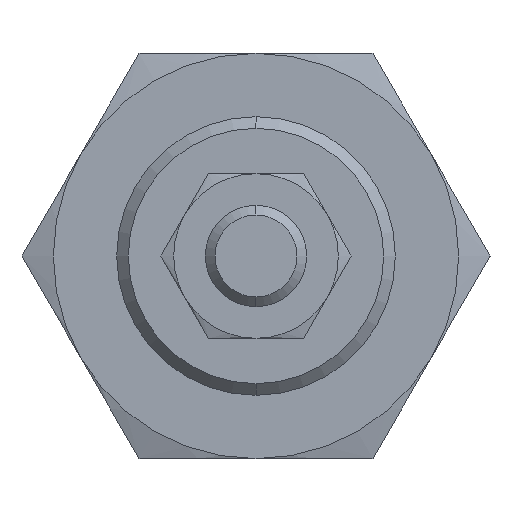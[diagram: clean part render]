
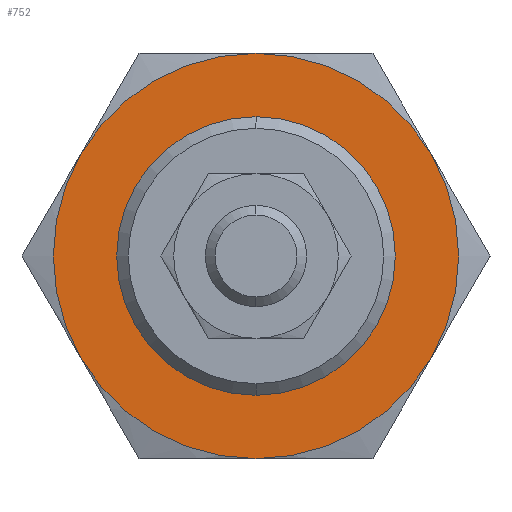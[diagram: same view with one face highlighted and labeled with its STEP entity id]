
A CAD part, left-side view. The second image highlights one B-rep face of the part: STEP entity #752.
In plain terms, the highlighted planar face has unit normal (-1, 0, 0).
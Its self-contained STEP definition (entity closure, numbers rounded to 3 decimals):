
#172 = CIRCLE ( 'NONE', #922, 16. ) ;
#224 = PLANE ( 'NONE',  #2102 ) ;
#315 = CARTESIAN_POINT ( 'NONE',  ( -16.5, -13.856, 8. ) ) ;
#351 = EDGE_CURVE ( 'NONE', #930, #3282, #3343, .T. ) ;
#396 = DIRECTION ( 'NONE',  ( 0., 0., -1. ) ) ;
#454 = CARTESIAN_POINT ( 'NONE',  ( -16.5, 0., -16. ) ) ;
#481 = FACE_OUTER_BOUND ( 'NONE', #2415, .T. ) ;
#516 = EDGE_CURVE ( 'NONE', #3059, #1509, #3544, .T. ) ;
#683 = EDGE_LOOP ( 'NONE', ( #2174, #4177 ) ) ;
#695 = EDGE_CURVE ( 'NONE', #2775, #3490, #1340, .T. ) ;
#704 = CARTESIAN_POINT ( 'NONE',  ( -16.5, 13.856, -8. ) ) ;
#750 = CARTESIAN_POINT ( 'NONE',  ( -16.5, 0., 0. ) ) ;
#752 = ADVANCED_FACE ( 'NONE', ( #481, #2152 ), #224, .T. ) ;
#772 = DIRECTION ( 'NONE',  ( 1., 0., 0. ) ) ;
#922 = AXIS2_PLACEMENT_3D ( 'NONE', #1848, #4050, #396 ) ;
#930 = VERTEX_POINT ( 'NONE', #3861 ) ;
#954 = DIRECTION ( 'NONE',  ( 1., 0., 0. ) ) ;
#997 = AXIS2_PLACEMENT_3D ( 'NONE', #750, #2593, #4028 ) ;
#1096 = CARTESIAN_POINT ( 'NONE',  ( -16.5, 13.856, 8. ) ) ;
#1239 = ORIENTED_EDGE ( 'NONE', *, *, #2320, .F. ) ;
#1254 = ORIENTED_EDGE ( 'NONE', *, *, #351, .F. ) ;
#1278 = CARTESIAN_POINT ( 'NONE',  ( -16.5, 0., 0. ) ) ;
#1299 = DIRECTION ( 'NONE',  ( 1., 0., 0. ) ) ;
#1340 = CIRCLE ( 'NONE', #2445, 16. ) ;
#1346 = ORIENTED_EDGE ( 'NONE', *, *, #695, .F. ) ;
#1509 = VERTEX_POINT ( 'NONE', #3650 ) ;
#1749 = AXIS2_PLACEMENT_3D ( 'NONE', #1278, #1299, #2615 ) ;
#1819 = DIRECTION ( 'NONE',  ( 0., 0., -1. ) ) ;
#1829 = CARTESIAN_POINT ( 'NONE',  ( -16.5, 16., 0. ) ) ;
#1848 = CARTESIAN_POINT ( 'NONE',  ( -16.5, 0., 0. ) ) ;
#2046 = CARTESIAN_POINT ( 'NONE',  ( -16.5, 0., 0. ) ) ;
#2089 = CARTESIAN_POINT ( 'NONE',  ( -16.5, -13.856, -8. ) ) ;
#2102 = AXIS2_PLACEMENT_3D ( 'NONE', #1829, #3755, #3471 ) ;
#2152 = FACE_BOUND ( 'NONE', #683, .T. ) ;
#2174 = ORIENTED_EDGE ( 'NONE', *, *, #516, .T. ) ;
#2179 = DIRECTION ( 'NONE',  ( 1., 0., 0. ) ) ;
#2260 = DIRECTION ( 'NONE',  ( 0., 0., -1. ) ) ;
#2307 = EDGE_CURVE ( 'NONE', #3490, #930, #172, .T. ) ;
#2320 = EDGE_CURVE ( 'NONE', #3282, #3425, #3879, .T. ) ;
#2415 = EDGE_LOOP ( 'NONE', ( #1346, #4180, #3566, #1239, #1254, #2549 ) ) ;
#2419 = VERTEX_POINT ( 'NONE', #454 ) ;
#2445 = AXIS2_PLACEMENT_3D ( 'NONE', #2658, #3974, #3641 ) ;
#2549 = ORIENTED_EDGE ( 'NONE', *, *, #2307, .F. ) ;
#2593 = DIRECTION ( 'NONE',  ( 1., 0., 0. ) ) ;
#2615 = DIRECTION ( 'NONE',  ( 0., 0., -1. ) ) ;
#2658 = CARTESIAN_POINT ( 'NONE',  ( -16.5, 0., 0. ) ) ;
#2698 = CARTESIAN_POINT ( 'NONE',  ( -16.5, 0., 11. ) ) ;
#2737 = DIRECTION ( 'NONE',  ( 0., 0., -1. ) ) ;
#2775 = VERTEX_POINT ( 'NONE', #704 ) ;
#2843 = CIRCLE ( 'NONE', #3393, 16. ) ;
#3059 = VERTEX_POINT ( 'NONE', #2698 ) ;
#3282 = VERTEX_POINT ( 'NONE', #315 ) ;
#3343 = CIRCLE ( 'NONE', #3616, 16. ) ;
#3351 = EDGE_CURVE ( 'NONE', #1509, #3059, #3600, .T. ) ;
#3393 = AXIS2_PLACEMENT_3D ( 'NONE', #2046, #772, #2737 ) ;
#3425 = VERTEX_POINT ( 'NONE', #2089 ) ;
#3427 = EDGE_CURVE ( 'NONE', #3425, #2419, #2843, .T. ) ;
#3455 = CARTESIAN_POINT ( 'NONE',  ( -16.5, 0., 0. ) ) ;
#3465 = AXIS2_PLACEMENT_3D ( 'NONE', #4245, #954, #2260 ) ;
#3471 = DIRECTION ( 'NONE',  ( 0., 0., 1. ) ) ;
#3490 = VERTEX_POINT ( 'NONE', #1096 ) ;
#3495 = DIRECTION ( 'NONE',  ( 0., 0., -1. ) ) ;
#3544 = CIRCLE ( 'NONE', #1749, 11. ) ;
#3566 = ORIENTED_EDGE ( 'NONE', *, *, #3427, .F. ) ;
#3600 = CIRCLE ( 'NONE', #3465, 11. ) ;
#3616 = AXIS2_PLACEMENT_3D ( 'NONE', #3455, #2179, #3495 ) ;
#3641 = DIRECTION ( 'NONE',  ( 0., 0., -1. ) ) ;
#3650 = CARTESIAN_POINT ( 'NONE',  ( -16.5, 0., -11. ) ) ;
#3747 = CIRCLE ( 'NONE', #3955, 16. ) ;
#3755 = DIRECTION ( 'NONE',  ( -1., 0., 0. ) ) ;
#3861 = CARTESIAN_POINT ( 'NONE',  ( -16.5, 0., 16. ) ) ;
#3879 = CIRCLE ( 'NONE', #997, 16. ) ;
#3955 = AXIS2_PLACEMENT_3D ( 'NONE', #4131, #4174, #1819 ) ;
#3974 = DIRECTION ( 'NONE',  ( 1., 0., 0. ) ) ;
#4028 = DIRECTION ( 'NONE',  ( 0., 0., -1. ) ) ;
#4031 = EDGE_CURVE ( 'NONE', #2419, #2775, #3747, .T. ) ;
#4050 = DIRECTION ( 'NONE',  ( 1., 0., 0. ) ) ;
#4131 = CARTESIAN_POINT ( 'NONE',  ( -16.5, 0., 0. ) ) ;
#4174 = DIRECTION ( 'NONE',  ( 1., 0., 0. ) ) ;
#4177 = ORIENTED_EDGE ( 'NONE', *, *, #3351, .T. ) ;
#4180 = ORIENTED_EDGE ( 'NONE', *, *, #4031, .F. ) ;
#4245 = CARTESIAN_POINT ( 'NONE',  ( -16.5, 0., 0. ) ) ;
